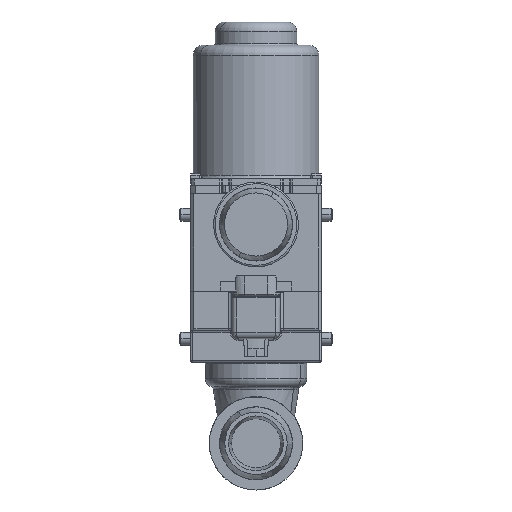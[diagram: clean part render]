
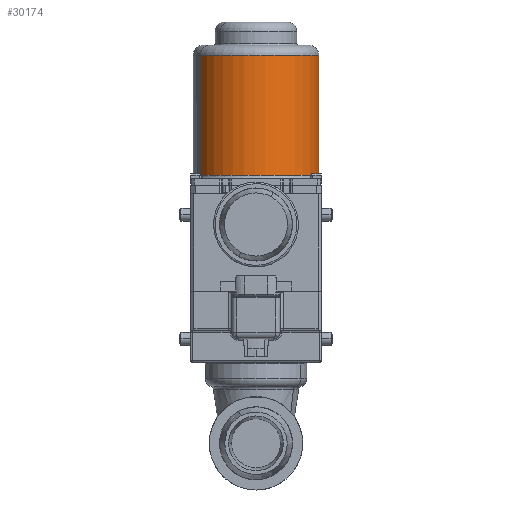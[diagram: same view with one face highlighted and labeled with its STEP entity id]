
A CAD part, left-side view. The second image highlights one B-rep face of the part: STEP entity #30174.
In plain terms, the highlighted cylindrical face has radius 19.25 mm (diameter 38.5 mm), a partial arc.
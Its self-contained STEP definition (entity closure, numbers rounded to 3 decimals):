
#30096=AXIS2_PLACEMENT_3D('Circle Axis2P3D',#30094,#30095,$) ;
#30147=AXIS2_PLACEMENT_3D('Cylinder Axis2P3D',#30144,#30145,#30146) ;
#30158=AXIS2_PLACEMENT_3D('Circle Axis2P3D',#30156,#30157,$) ;
#30091=CARTESIAN_POINT('Vertex',(-9.229,16.893,94.05)) ;
#30094=CARTESIAN_POINT('Axis2P3D Location',(0.,0.,94.05)) ;
#30098=CARTESIAN_POINT('Vertex',(9.229,-16.893,94.05)) ;
#30144=CARTESIAN_POINT('Axis2P3D Location',(0.,0.,79.2)) ;
#30149=CARTESIAN_POINT('Line Origine',(-9.229,16.893,75.625)) ;
#30153=CARTESIAN_POINT('Vertex',(-9.229,16.893,57.2)) ;
#30156=CARTESIAN_POINT('Axis2P3D Location',(0.,0.,57.2)) ;
#30160=CARTESIAN_POINT('Vertex',(9.229,-16.893,57.2)) ;
#30163=CARTESIAN_POINT('Line Origine',(9.229,-16.893,75.625)) ;
#30095=DIRECTION('Axis2P3D Direction',(0.,0.,1.)) ;
#30145=DIRECTION('Axis2P3D Direction',(0.,0.,1.)) ;
#30146=DIRECTION('Axis2P3D XDirection',(-0.479,0.878,0.)) ;
#30150=DIRECTION('Vector Direction',(0.,0.,1.)) ;
#30157=DIRECTION('Axis2P3D Direction',(0.,0.,1.)) ;
#30164=DIRECTION('Vector Direction',(0.,0.,1.)) ;
#30151=VECTOR('Line Direction',#30150,1.) ;
#30165=VECTOR('Line Direction',#30164,1.) ;
#30169=ORIENTED_EDGE('',*,*,#30155,.F.) ;
#30170=ORIENTED_EDGE('',*,*,#30162,.F.) ;
#30171=ORIENTED_EDGE('',*,*,#30167,.T.) ;
#30172=ORIENTED_EDGE('',*,*,#30100,.F.) ;
#30174=ADVANCED_FACE('Polgehaeuse',(#30173),#30148,.T.) ;
#30097=CIRCLE('generated circle',#30096,19.25) ;
#30159=CIRCLE('generated circle',#30158,19.25) ;
#30148=CYLINDRICAL_SURFACE('generated cylinder',#30147,19.25) ;
#30100=EDGE_CURVE('',#30092,#30099,#30097,.T.) ;
#30155=EDGE_CURVE('',#30154,#30092,#30152,.T.) ;
#30162=EDGE_CURVE('',#30161,#30154,#30159,.F.) ;
#30167=EDGE_CURVE('',#30161,#30099,#30166,.T.) ;
#30168=EDGE_LOOP('',(#30169,#30170,#30171,#30172)) ;
#30173=FACE_OUTER_BOUND('',#30168,.T.) ;
#30152=LINE('Line',#30149,#30151) ;
#30166=LINE('Line',#30163,#30165) ;
#30092=VERTEX_POINT('',#30091) ;
#30099=VERTEX_POINT('',#30098) ;
#30154=VERTEX_POINT('',#30153) ;
#30161=VERTEX_POINT('',#30160) ;
